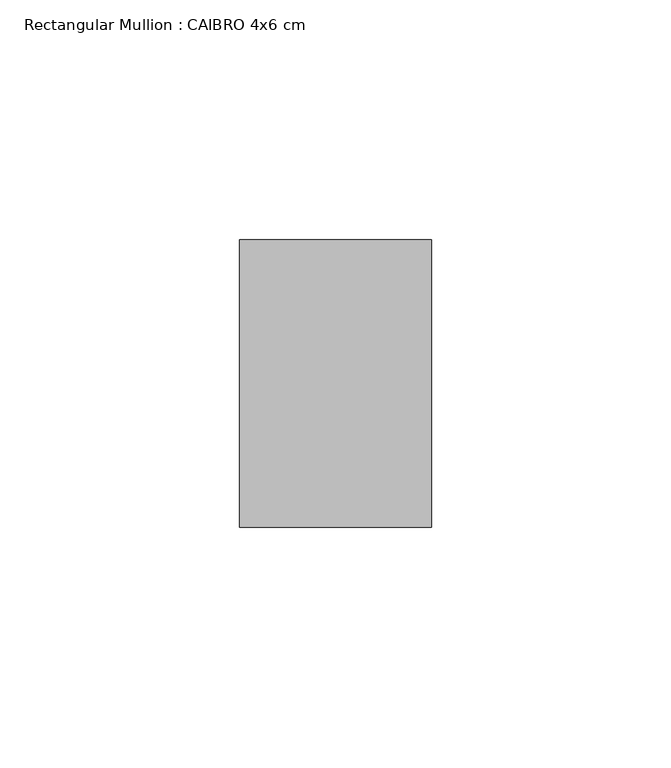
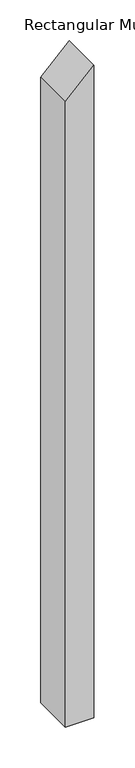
"""IFC4 building model written with IfcOpenShell, lengths in millimetres: member geometry, Rectangular Mullion : CAIBRO 4x6 cm."""

from ifc_helpers import new_model, si_unit, frame, origin, place, context, project, spatial, polyline, outline, extrude, source, transform, mapped, element, save


def rectangular_mullion_caibro_4x6_cm_da8d6b15(model_context):
    return source(origin(), model_context, "Body", "SweptSolid", [
        extrude(outline(polyline([(-36.6621022, 20.0), (-77.109599, -20.0), (-1009.5884118, -20.0), (-1009.5884118, 20.0), (-36.6621022, 20.0)])), frame((0.0, 0.0, 0.0), z_axis=(0.0, 1.0, 0.0), x_axis=(0.0, 0.0, 1.0)), (0.0, 0.0, 1.0), 60.0),
    ])


if __name__ == "__main__":
    model = new_model("IFC4")
    model_context = context("Model", 3, world=origin())
    ifc_project = project(units=[si_unit("LENGTHUNIT", "METRE", prefix="MILLI")], contexts=[model_context])
    site = spatial("IfcSite", under=ifc_project)
    building = spatial("IfcBuilding", under=site)
    placement = place(None, origin())
    rectangular_mullion_caibro_4x6_cm_shape = rectangular_mullion_caibro_4x6_cm_da8d6b15(model_context)
    element("IfcMember", 1, ObjectType="Rectangular Mullion : CAIBRO 4x6 cm", at=placement, inside=building, context=model_context, shape_type="MappedRepresentation", body=[
        mapped(rectangular_mullion_caibro_4x6_cm_shape, transform((0.0, 0.0, 0.0), x_axis=(1.0, 0.0, 0.0), y_axis=(0.0, 1.0, 0.0), z_axis=(0.0, 0.0, 1.0))),
    ])
    save(model, "model.ifc")
